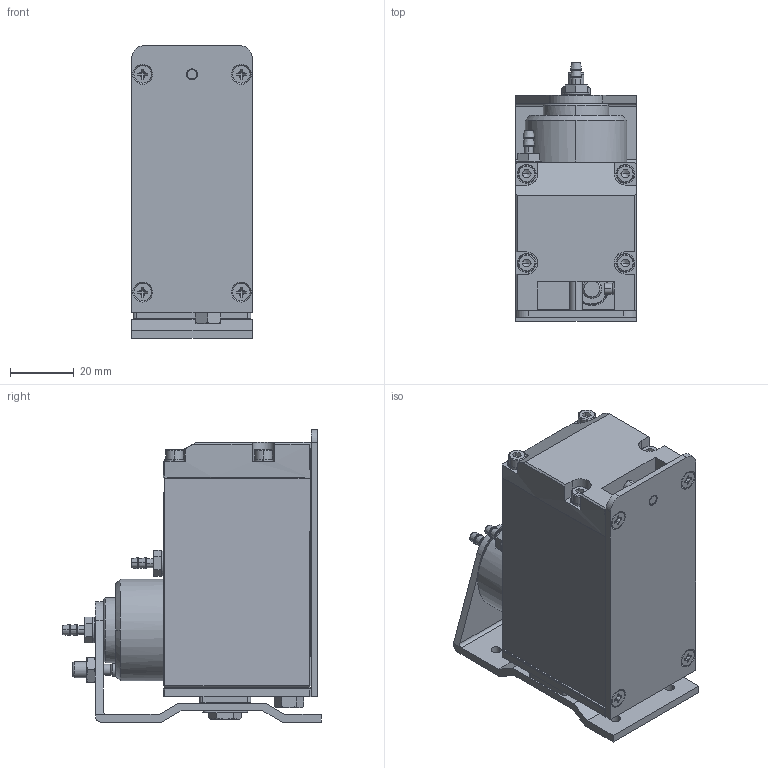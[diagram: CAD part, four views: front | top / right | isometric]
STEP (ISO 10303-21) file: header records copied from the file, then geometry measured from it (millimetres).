
FILE_DESCRIPTION (( 'STEP AP214' ), '1' );
FILE_NAME ('GT-NT10R.STEP', '2019-11-27T08:46:50', ( '微软用户' ), ( '微软中国' ), 'SwSTEP 2.0', 'SolidWorks 2016', '' );
FILE_SCHEMA (( 'AUTOMOTIVE_DESIGN' ));
Length unit declared in the file: millimetre
Products named in the file (1): GT-NT10R
Bounding box: 38 x 81.3 x 92 mm (x, y, z)
Surface area: 44589 mm2 (no closed solid volume)
Topology: 0 solids, 123 shells, 1152 faces, 3003 edges, 2035 vertices
Faces by surface type: plane 539, cylinder 324, bspline 185, cone 88, torus 16
Entity records: 55702 total; most frequent: CARTESIAN_POINT 22908, ORIENTED_EDGE 5458, DIRECTION 4741, EDGE_CURVE 2967, VERTEX_POINT 2035, AXIS2_PLACEMENT_3D 1766, EDGE_LOOP 1302, VECTOR 1209
